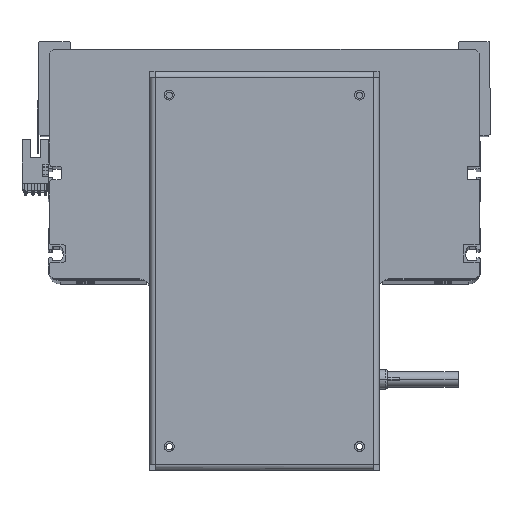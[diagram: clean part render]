
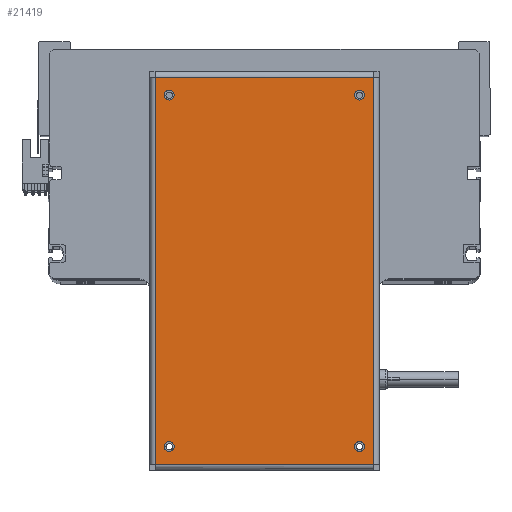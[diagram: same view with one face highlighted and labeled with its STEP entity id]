
A CAD part, top view. The second image highlights one B-rep face of the part: STEP entity #21419.
In plain terms, the highlighted planar face has unit normal (0, 0, 1).
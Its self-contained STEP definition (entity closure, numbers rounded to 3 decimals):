
#520 = CARTESIAN_POINT ( 'NONE',  ( 89.55, 48.5, 0. ) ) ;
#850 = VERTEX_POINT ( 'NONE', #10828 ) ;
#1496 = CARTESIAN_POINT ( 'NONE',  ( 92.05, 48.5, 0. ) ) ;
#1563 = DIRECTION ( 'NONE',  ( 0., 0., -1. ) ) ;
#1756 = VECTOR ( 'NONE', #39399, 1000. ) ;
#3633 = DIRECTION ( 'NONE',  ( 0., 0., 1. ) ) ;
#3666 = DIRECTION ( 'NONE',  ( 1., 0., 0. ) ) ;
#4351 = AXIS2_PLACEMENT_3D ( 'NONE', #29673, #1563, #29271 ) ;
#4575 = VECTOR ( 'NONE', #29491, 1000. ) ;
#5205 = CARTESIAN_POINT ( 'NONE',  ( -89.55, -48.5, 0. ) ) ;
#5655 = LINE ( 'NONE', #17746, #1756 ) ;
#7356 = EDGE_LOOP ( 'NONE', ( #33180, #34822 ) ) ;
#7455 = EDGE_CURVE ( 'NONE', #21100, #36108, #29481, .T. ) ;
#7798 = ORIENTED_EDGE ( 'NONE', *, *, #21596, .F. ) ;
#8062 = LINE ( 'NONE', #28803, #9024 ) ;
#8555 = EDGE_CURVE ( 'NONE', #35723, #33237, #32779, .T. ) ;
#8921 = DIRECTION ( 'NONE',  ( 0., 0., 1. ) ) ;
#9024 = VECTOR ( 'NONE', #35173, 1000. ) ;
#9043 = ORIENTED_EDGE ( 'NONE', *, *, #36018, .T. ) ;
#9750 = EDGE_LOOP ( 'NONE', ( #23517, #19805 ) ) ;
#10117 = CIRCLE ( 'NONE', #32572, 2.5 ) ;
#10828 = CARTESIAN_POINT ( 'NONE',  ( -92.05, -48.5, 0. ) ) ;
#11759 = VERTEX_POINT ( 'NONE', #18653 ) ;
#11968 = FACE_BOUND ( 'NONE', #22720, .T. ) ;
#12613 = CARTESIAN_POINT ( 'NONE',  ( 98.65, -55.6, 0. ) ) ;
#14156 = DIRECTION ( 'NONE',  ( 0., 1., 0. ) ) ;
#14300 = AXIS2_PLACEMENT_3D ( 'NONE', #520, #3633, #31072 ) ;
#15128 = EDGE_LOOP ( 'NONE', ( #15801, #22287 ) ) ;
#15163 = CARTESIAN_POINT ( 'NONE',  ( -98.65, -55.6, 0. ) ) ;
#15801 = ORIENTED_EDGE ( 'NONE', *, *, #29241, .F. ) ;
#16135 = DIRECTION ( 'NONE',  ( 0., 0., 1. ) ) ;
#16527 = CARTESIAN_POINT ( 'NONE',  ( -89.55, -48.5, 0. ) ) ;
#16652 = VERTEX_POINT ( 'NONE', #22052 ) ;
#16791 = LINE ( 'NONE', #20605, #38560 ) ;
#16856 = CARTESIAN_POINT ( 'NONE',  ( 89.55, -48.5, 0. ) ) ;
#17640 = CARTESIAN_POINT ( 'NONE',  ( -89.55, 48.5, 0. ) ) ;
#17746 = CARTESIAN_POINT ( 'NONE',  ( 98.75, 55.6, 0. ) ) ;
#18081 = CARTESIAN_POINT ( 'NONE',  ( 98.65, 55.6, 0. ) ) ;
#18359 = ORIENTED_EDGE ( 'NONE', *, *, #19089, .F. ) ;
#18653 = CARTESIAN_POINT ( 'NONE',  ( -87.05, 48.5, 0. ) ) ;
#19089 = EDGE_CURVE ( 'NONE', #850, #35904, #10117, .T. ) ;
#19351 = AXIS2_PLACEMENT_3D ( 'NONE', #32785, #23744, #29690 ) ;
#19805 = ORIENTED_EDGE ( 'NONE', *, *, #8555, .F. ) ;
#19856 = EDGE_LOOP ( 'NONE', ( #30391, #37719, #29039, #9043 ) ) ;
#20512 = CIRCLE ( 'NONE', #19351, 2.5 ) ;
#20605 = CARTESIAN_POINT ( 'NONE',  ( 98.65, -55.6, 0. ) ) ;
#20662 = DIRECTION ( 'NONE',  ( 0., 0., 1. ) ) ;
#20721 = VERTEX_POINT ( 'NONE', #31125 ) ;
#21100 = VERTEX_POINT ( 'NONE', #34022 ) ;
#21419 = ADVANCED_FACE ( 'NONE', ( #11968, #28793, #37063, #34624, #39970 ), #32638, .F. ) ;
#21496 = AXIS2_PLACEMENT_3D ( 'NONE', #5205, #8921, #36040 ) ;
#21525 = CARTESIAN_POINT ( 'NONE',  ( 87.05, -48.5, 0. ) ) ;
#21589 = EDGE_CURVE ( 'NONE', #20721, #11759, #33604, .T. ) ;
#21596 = EDGE_CURVE ( 'NONE', #35904, #850, #29269, .T. ) ;
#21785 = EDGE_CURVE ( 'NONE', #16652, #22020, #8062, .T. ) ;
#22020 = VERTEX_POINT ( 'NONE', #15163 ) ;
#22052 = CARTESIAN_POINT ( 'NONE',  ( -98.65, 55.6, 0. ) ) ;
#22287 = ORIENTED_EDGE ( 'NONE', *, *, #21589, .F. ) ;
#22720 = EDGE_LOOP ( 'NONE', ( #7798, #18359 ) ) ;
#22829 = VERTEX_POINT ( 'NONE', #18081 ) ;
#23161 = CARTESIAN_POINT ( 'NONE',  ( -98.75, -55.6, 0. ) ) ;
#23373 = DIRECTION ( 'NONE',  ( 1., 0., 0. ) ) ;
#23517 = ORIENTED_EDGE ( 'NONE', *, *, #23972, .F. ) ;
#23744 = DIRECTION ( 'NONE',  ( 0., 0., 1. ) ) ;
#23972 = EDGE_CURVE ( 'NONE', #33237, #35723, #30559, .T. ) ;
#26771 = EDGE_CURVE ( 'NONE', #37359, #22829, #16791, .T. ) ;
#27270 = AXIS2_PLACEMENT_3D ( 'NONE', #16856, #32232, #38501 ) ;
#28793 = FACE_BOUND ( 'NONE', #15128, .T. ) ;
#28803 = CARTESIAN_POINT ( 'NONE',  ( -98.65, 55.6, 0. ) ) ;
#29039 = ORIENTED_EDGE ( 'NONE', *, *, #26771, .T. ) ;
#29102 = CARTESIAN_POINT ( 'NONE',  ( -87.05, -48.5, 0. ) ) ;
#29241 = EDGE_CURVE ( 'NONE', #11759, #20721, #20512, .T. ) ;
#29269 = CIRCLE ( 'NONE', #21496, 2.5 ) ;
#29271 = DIRECTION ( 'NONE',  ( -1., 0., 0. ) ) ;
#29481 = CIRCLE ( 'NONE', #27270, 2.5 ) ;
#29491 = DIRECTION ( 'NONE',  ( 1., 0., 0. ) ) ;
#29673 = CARTESIAN_POINT ( 'NONE',  ( 98.75, 58.5, 0. ) ) ;
#29690 = DIRECTION ( 'NONE',  ( 1., 0., 0. ) ) ;
#29859 = AXIS2_PLACEMENT_3D ( 'NONE', #39207, #20662, #23373 ) ;
#30067 = DIRECTION ( 'NONE',  ( 1., 0., 0. ) ) ;
#30391 = ORIENTED_EDGE ( 'NONE', *, *, #21785, .T. ) ;
#30559 = CIRCLE ( 'NONE', #14300, 2.5 ) ;
#31072 = DIRECTION ( 'NONE',  ( 1., 0., 0. ) ) ;
#31125 = CARTESIAN_POINT ( 'NONE',  ( -92.05, 48.5, 0. ) ) ;
#31803 = CARTESIAN_POINT ( 'NONE',  ( 87.05, 48.5, 0. ) ) ;
#32232 = DIRECTION ( 'NONE',  ( 0., 0., 1. ) ) ;
#32572 = AXIS2_PLACEMENT_3D ( 'NONE', #16527, #16135, #3666 ) ;
#32638 = PLANE ( 'NONE',  #4351 ) ;
#32643 = CIRCLE ( 'NONE', #33151, 2.5 ) ;
#32779 = CIRCLE ( 'NONE', #29859, 2.5 ) ;
#32785 = CARTESIAN_POINT ( 'NONE',  ( -89.55, 48.5, 0. ) ) ;
#32965 = CARTESIAN_POINT ( 'NONE',  ( 89.55, -48.5, 0. ) ) ;
#33106 = DIRECTION ( 'NONE',  ( 1., 0., 0. ) ) ;
#33151 = AXIS2_PLACEMENT_3D ( 'NONE', #32965, #36104, #33106 ) ;
#33180 = ORIENTED_EDGE ( 'NONE', *, *, #7455, .F. ) ;
#33237 = VERTEX_POINT ( 'NONE', #1496 ) ;
#33587 = LINE ( 'NONE', #23161, #4575 ) ;
#33604 = CIRCLE ( 'NONE', #34684, 2.5 ) ;
#34022 = CARTESIAN_POINT ( 'NONE',  ( 92.05, -48.5, 0. ) ) ;
#34624 = FACE_BOUND ( 'NONE', #9750, .T. ) ;
#34684 = AXIS2_PLACEMENT_3D ( 'NONE', #17640, #39564, #30067 ) ;
#34822 = ORIENTED_EDGE ( 'NONE', *, *, #39458, .F. ) ;
#35173 = DIRECTION ( 'NONE',  ( 0., -1., 0. ) ) ;
#35723 = VERTEX_POINT ( 'NONE', #31803 ) ;
#35904 = VERTEX_POINT ( 'NONE', #29102 ) ;
#36018 = EDGE_CURVE ( 'NONE', #22829, #16652, #5655, .T. ) ;
#36040 = DIRECTION ( 'NONE',  ( 1., 0., 0. ) ) ;
#36104 = DIRECTION ( 'NONE',  ( 0., 0., 1. ) ) ;
#36108 = VERTEX_POINT ( 'NONE', #21525 ) ;
#36970 = EDGE_CURVE ( 'NONE', #22020, #37359, #33587, .T. ) ;
#37063 = FACE_BOUND ( 'NONE', #7356, .T. ) ;
#37359 = VERTEX_POINT ( 'NONE', #12613 ) ;
#37719 = ORIENTED_EDGE ( 'NONE', *, *, #36970, .T. ) ;
#38501 = DIRECTION ( 'NONE',  ( 1., 0., 0. ) ) ;
#38560 = VECTOR ( 'NONE', #14156, 1000. ) ;
#39207 = CARTESIAN_POINT ( 'NONE',  ( 89.55, 48.5, 0. ) ) ;
#39399 = DIRECTION ( 'NONE',  ( -1., 0., 0. ) ) ;
#39458 = EDGE_CURVE ( 'NONE', #36108, #21100, #32643, .T. ) ;
#39564 = DIRECTION ( 'NONE',  ( 0., 0., 1. ) ) ;
#39970 = FACE_OUTER_BOUND ( 'NONE', #19856, .T. ) ;
